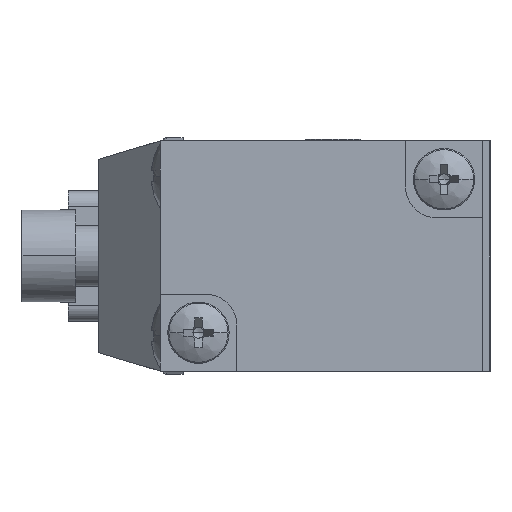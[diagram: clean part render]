
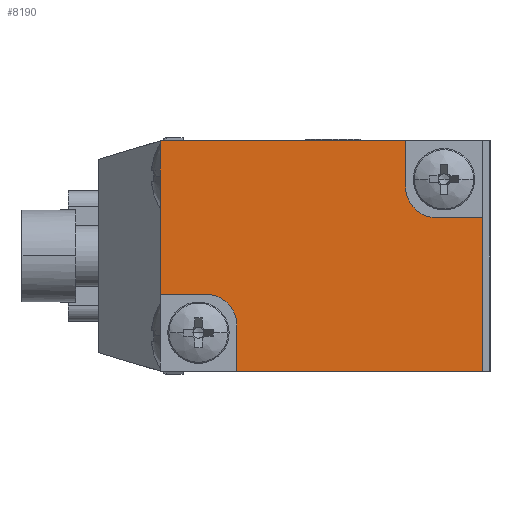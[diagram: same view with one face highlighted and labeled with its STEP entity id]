
A CAD part, left-side view. The second image highlights one B-rep face of the part: STEP entity #8190.
In plain terms, the highlighted planar face has unit normal (-1, 0, 0).
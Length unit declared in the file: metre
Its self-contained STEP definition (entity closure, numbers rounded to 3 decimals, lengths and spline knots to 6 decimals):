
#218 = VECTOR ( 'NONE', #9110, 1. ) ;
#264 = LINE ( 'NONE', #538, #8639 ) ;
#287 = CARTESIAN_POINT ( 'NONE',  ( -0.009, 0.016, 0. ) ) ;
#530 = DIRECTION ( 'NONE',  ( 0., 0., 1. ) ) ;
#538 = CARTESIAN_POINT ( 'NONE',  ( -0.009, 0., 0. ) ) ;
#735 = ORIENTED_EDGE ( 'NONE', *, *, #4022, .T. ) ;
#833 = EDGE_CURVE ( 'NONE', #8061, #7555, #3929, .T. ) ;
#884 = CIRCLE ( 'NONE', #7167, 0.002 ) ;
#925 = ORIENTED_EDGE ( 'NONE', *, *, #833, .T. ) ;
#1066 = AXIS2_PLACEMENT_3D ( 'NONE', #8425, #9248, #4339 ) ;
#1271 = EDGE_CURVE ( 'NONE', #9495, #8065, #7895, .T. ) ;
#1400 = EDGE_CURVE ( 'NONE', #4738, #6116, #2823, .T. ) ;
#1440 = CARTESIAN_POINT ( 'NONE',  ( -0.009, 0.005, 0.006 ) ) ;
#1445 = LINE ( 'NONE', #1440, #9550 ) ;
#1542 = DIRECTION ( 'NONE',  ( 0., 0., 1. ) ) ;
#1617 = FACE_OUTER_BOUND ( 'NONE', #2470, .T. ) ;
#1657 = CARTESIAN_POINT ( 'NONE',  ( -0.009, 0., 0.0025 ) ) ;
#1856 = VECTOR ( 'NONE', #9539, 1. ) ;
#2056 = CARTESIAN_POINT ( 'NONE',  ( -0.009, 0.0105, -0.0075 ) ) ;
#2293 = DIRECTION ( 'NONE',  ( 0., 1., 0. ) ) ;
#2470 = EDGE_LOOP ( 'NONE', ( #4460, #4797, #3263, #4478, #925, #3814, #8839, #4761, #9716, #735 ) ) ;
#2502 = DIRECTION ( 'NONE',  ( 0., 1., 0. ) ) ;
#2570 = DIRECTION ( 'NONE',  ( 0., 0., -1. ) ) ;
#2629 = CARTESIAN_POINT ( 'NONE',  ( -0.009, 0.0015, 0.0025 ) ) ;
#2748 = LINE ( 'NONE', #287, #6761 ) ;
#2823 = LINE ( 'NONE', #2056, #6578 ) ;
#3025 = DIRECTION ( 'NONE',  ( -1., 0., 0. ) ) ;
#3050 = CARTESIAN_POINT ( 'NONE',  ( -0.009, 0.018, -0.0045 ) ) ;
#3161 = EDGE_CURVE ( 'NONE', #5244, #7336, #1445, .T. ) ;
#3263 = ORIENTED_EDGE ( 'NONE', *, *, #3161, .T. ) ;
#3814 = ORIENTED_EDGE ( 'NONE', *, *, #8706, .F. ) ;
#3929 = LINE ( 'NONE', #9569, #1856 ) ;
#4022 = EDGE_CURVE ( 'NONE', #4738, #5304, #264, .T. ) ;
#4123 = CARTESIAN_POINT ( 'NONE',  ( -0.009, 0.003, 0.0045 ) ) ;
#4125 = CARTESIAN_POINT ( 'NONE',  ( -0.009, 0.018, -0.0025 ) ) ;
#4150 = DIRECTION ( 'NONE',  ( -1., 0., 0. ) ) ;
#4157 = DIRECTION ( 'NONE',  ( 0., 0., -1. ) ) ;
#4339 = DIRECTION ( 'NONE',  ( 0., 0., -1. ) ) ;
#4454 = VECTOR ( 'NONE', #6586, 1. ) ;
#4460 = ORIENTED_EDGE ( 'NONE', *, *, #7528, .T. ) ;
#4478 = ORIENTED_EDGE ( 'NONE', *, *, #8637, .T. ) ;
#4647 = AXIS2_PLACEMENT_3D ( 'NONE', #3050, #3025, #2570 ) ;
#4722 = LINE ( 'NONE', #2629, #218 ) ;
#4738 = VERTEX_POINT ( 'NONE', #5164 ) ;
#4761 = ORIENTED_EDGE ( 'NONE', *, *, #6981, .F. ) ;
#4797 = ORIENTED_EDGE ( 'NONE', *, *, #5855, .F. ) ;
#5115 = PLANE ( 'NONE',  #1066 ) ;
#5164 = CARTESIAN_POINT ( 'NONE',  ( -0.009, 0., -0.0075 ) ) ;
#5215 = VECTOR ( 'NONE', #2502, 1. ) ;
#5244 = VERTEX_POINT ( 'NONE', #10388 ) ;
#5304 = VERTEX_POINT ( 'NONE', #1657 ) ;
#5700 = CARTESIAN_POINT ( 'NONE',  ( -0.009, 0.003, 0.0025 ) ) ;
#5855 = EDGE_CURVE ( 'NONE', #5244, #9993, #884, .T. ) ;
#5902 = DIRECTION ( 'NONE',  ( 0., 0., 1. ) ) ;
#6116 = VERTEX_POINT ( 'NONE', #7472 ) ;
#6551 = CARTESIAN_POINT ( 'NONE',  ( -0.009, 0.0105, -0.0025 ) ) ;
#6560 = CARTESIAN_POINT ( 'NONE',  ( -0.009, 0.021, 0.0075 ) ) ;
#6578 = VECTOR ( 'NONE', #2293, 1. ) ;
#6586 = DIRECTION ( 'NONE',  ( 0., 1., 0. ) ) ;
#6610 = LINE ( 'NONE', #6551, #4454 ) ;
#6761 = VECTOR ( 'NONE', #5902, 1. ) ;
#6981 = EDGE_CURVE ( 'NONE', #6116, #9495, #2748, .T. ) ;
#7129 = LINE ( 'NONE', #7321, #5215 ) ;
#7167 = AXIS2_PLACEMENT_3D ( 'NONE', #4123, #4150, #4157 ) ;
#7321 = CARTESIAN_POINT ( 'NONE',  ( -0.009, 0.0105, 0.0075 ) ) ;
#7336 = VERTEX_POINT ( 'NONE', #8082 ) ;
#7472 = CARTESIAN_POINT ( 'NONE',  ( -0.009, 0.016, -0.0075 ) ) ;
#7528 = EDGE_CURVE ( 'NONE', #5304, #9993, #4722, .T. ) ;
#7555 = VERTEX_POINT ( 'NONE', #9962 ) ;
#7895 = CIRCLE ( 'NONE', #4647, 0.002 ) ;
#8061 = VERTEX_POINT ( 'NONE', #6560 ) ;
#8065 = VERTEX_POINT ( 'NONE', #4125 ) ;
#8082 = CARTESIAN_POINT ( 'NONE',  ( -0.009, 0.005, 0.0075 ) ) ;
#8190 = ADVANCED_FACE ( 'NONE', ( #1617 ), #5115, .F. ) ;
#8273 = CARTESIAN_POINT ( 'NONE',  ( -0.009, 0.016, -0.0045 ) ) ;
#8425 = CARTESIAN_POINT ( 'NONE',  ( -0.009, 0., 0.0075 ) ) ;
#8637 = EDGE_CURVE ( 'NONE', #7336, #8061, #7129, .T. ) ;
#8639 = VECTOR ( 'NONE', #530, 1. ) ;
#8706 = EDGE_CURVE ( 'NONE', #8065, #7555, #6610, .T. ) ;
#8839 = ORIENTED_EDGE ( 'NONE', *, *, #1271, .F. ) ;
#9110 = DIRECTION ( 'NONE',  ( 0., 1., 0. ) ) ;
#9248 = DIRECTION ( 'NONE',  ( 1., 0., 0. ) ) ;
#9495 = VERTEX_POINT ( 'NONE', #8273 ) ;
#9539 = DIRECTION ( 'NONE',  ( 0., 0., -1. ) ) ;
#9550 = VECTOR ( 'NONE', #1542, 1. ) ;
#9569 = CARTESIAN_POINT ( 'NONE',  ( -0.009, 0.021, 0. ) ) ;
#9716 = ORIENTED_EDGE ( 'NONE', *, *, #1400, .F. ) ;
#9962 = CARTESIAN_POINT ( 'NONE',  ( -0.009, 0.021, -0.0025 ) ) ;
#9993 = VERTEX_POINT ( 'NONE', #5700 ) ;
#10388 = CARTESIAN_POINT ( 'NONE',  ( -0.009, 0.005, 0.0045 ) ) ;
